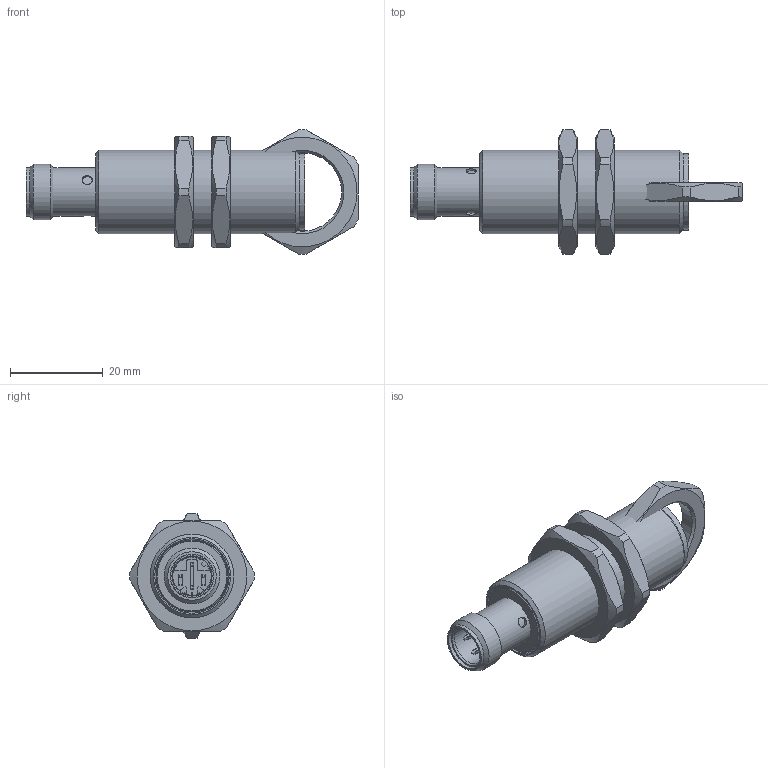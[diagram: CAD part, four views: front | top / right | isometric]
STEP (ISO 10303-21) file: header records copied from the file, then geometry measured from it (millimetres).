
FILE_DESCRIPTION( ( 'Unknown' ), '1' );
FILE_NAME( '//baumerholding.org/frauenfeld/bereich/BECH/Services/me_CAD/Solid Edge/Models/Dokumentationen/Induktiv/IxRx 18/Vereinfachte Modelle/Neutralformate/IFRD 18xx7A3_S14L.stp', 'Unknown', ( 'Unknown' ), ( 'Unknown' ), 'XStep 1.0', 'Unknown', ' ' );
FILE_SCHEMA( ( 'CONFIG_CONTROL_DESIGN' ) );
Length unit declared in the file: millimetre
Products named in the file (3): Assem1; 101761; IFRD 18xx7A3_S14L_oA
Bounding box: 71.5 x 26.8 x 26.8 mm (x, y, z)
Volume: 27262.2 mm3; surface area: 11862.4 mm2
Topology: 5 solids, 7 shells, 327 faces, 831 edges, 544 vertices
Faces by surface type: plane 186, cylinder 105, cone 36
Full cylindrical faces by diameter (mm): 0.4 x2, 0.8 x2, 2.2 x6, 9.45 x2, 10.45 x4, 12 x2, 14.4 x2, 15.5 x2, 16.4 x2, 16.917 x3, 18 x2
Entity records: 4896 total; most frequent: CARTESIAN_POINT 1129, DIRECTION 762, ORIENTED_EDGE 714, EDGE_CURVE 357, AXIS2_PLACEMENT_3D 273, VERTEX_POINT 248, LINE 216, VECTOR 216
